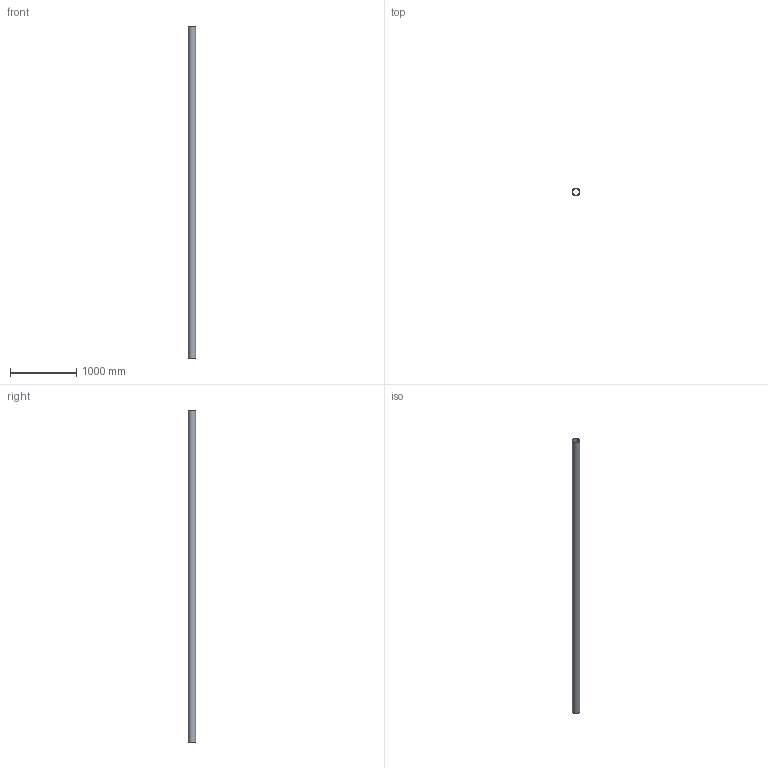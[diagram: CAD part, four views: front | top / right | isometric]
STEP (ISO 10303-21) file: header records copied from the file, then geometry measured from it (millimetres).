
FILE_DESCRIPTION(/* description */ (''),/* implementation_level */ '2;1');
FILE_NAME(/* name */ 'C:\Geberit-Teile\Export 2019\379.000.16.0\stp\367000.stp',/* time_stamp */ '2019-06-06T10:48:34+02:00',/* author */ ('JANAN'),/* organization */ (''),/* preprocessor_version */ 'ST-DEVELOPER v16.13',/* originating_system */ 'Autodesk Inventor 2018',/* authorisation */ '');
FILE_SCHEMA (('AUTOMOTIVE_DESIGN { 1 0 10303 214 3 1 1 }'));
Length unit declared in the file: millimetre
Products named in the file (1): Rohr PE-HD d110x4.3 L5000
Bounding box: 110 x 110 x 5000 mm (x, y, z)
Volume: 7139426.4 mm3; surface area: 3323519.2 mm2
Topology: 1 solids, 1 shells, 4 faces, 6 edges, 4 vertices
Faces by surface type: cylinder 2, plane 2
Full cylindrical faces by diameter (mm): 101.4 x1, 110 x1
Entity records: 131 total; most frequent: DIRECTION 18, CARTESIAN_POINT 13, AXIS2_PLACEMENT_3D 9, EDGE_LOOP 8, ORIENTED_EDGE 8, STYLED_ITEM 5, FACE_BOUND 4, FACE_OUTER_BOUND 4
